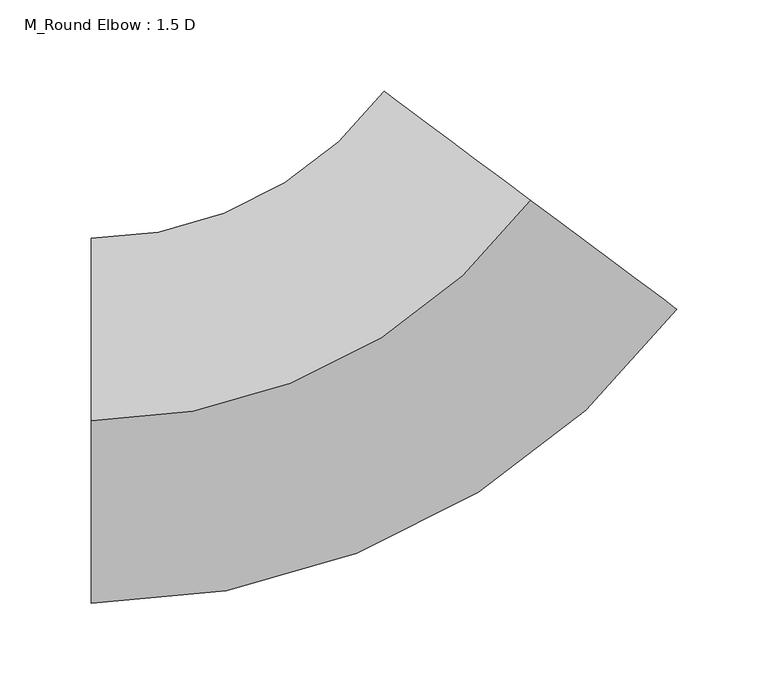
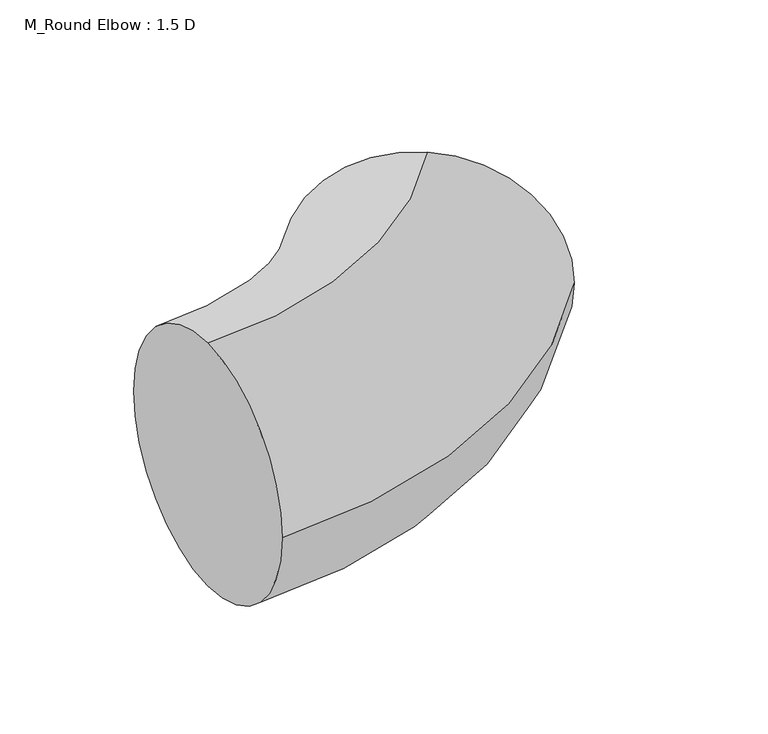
"""IFC4 building model written with IfcOpenShell, lengths in millimetres: duct fitting geometry, M_Round Elbow : 1.5 D."""

from ifc_helpers import new_model, si_unit, point, frame, origin, place, context, project, spatial, circle_curve, ellipse_curve, trimmed, source, transform, mapped, element, save
from ifc_brep_helpers import plane_surface, revolved_surface, advanced_brep


def m_round_elbow_1_5_d_a73345fc(model_context):
    return source(origin(), model_context, "Body", "AdvancedBrep", [
        advanced_brep(
        [(-150.6718755, 0.0, 100.0), (-150.6718755, 100.0, 0.0), (-150.6718755, 0.0, -100.0), (-150.6718755, -100.0, 0.0), (89.9710075, 120.8603817, 100.0), (170.1853019, 61.1471757, 0.0), (89.9710075, 120.8603817, -100.0), (9.7567132, 180.5735878, 0.0)],
        [
            (0, 1, circle_curve(frame((-150.6718755, 0.0, 0.0), z_axis=(-1.0, 0.0, 0.0), x_axis=(0.0, 1.0, 0.0)), 100.0)),
            (1, 2, circle_curve(frame((-150.6718755, 0.0, 0.0), z_axis=(-1.0, 0.0, 0.0), x_axis=(0.0, 1.0, 0.0)), 100.0)),
            (2, 3, circle_curve(frame((-150.6718755, 0.0, 0.0), z_axis=(-1.0, 0.0, 0.0), x_axis=(0.0, 1.0, 0.0)), 100.0)),
            (3, 0, circle_curve(frame((-150.6718755, 0.0, 0.0), z_axis=(-1.0, 0.0, 0.0), x_axis=(0.0, 1.0, 0.0)), 100.0)),
            (4, 5, circle_curve(frame((89.9710075, 120.8603817, 0.0), z_axis=(0.5971320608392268, 0.8021429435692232, 0.0), x_axis=(-0.8021429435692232, 0.5971320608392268, 0.0)), 100.0)),
            (5, 6, circle_curve(frame((89.9710075, 120.8603817, 0.0), z_axis=(0.5971320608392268, 0.8021429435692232, 0.0), x_axis=(-0.8021429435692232, 0.5971320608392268, 0.0)), 100.0)),
            (6, 7, circle_curve(frame((89.9710075, 120.8603817, 0.0), z_axis=(0.5971320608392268, 0.8021429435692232, 0.0), x_axis=(-0.8021429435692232, 0.5971320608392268, 0.0)), 100.0)),
            (7, 4, circle_curve(frame((89.9710075, 120.8603817, 0.0), z_axis=(0.5971320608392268, 0.8021429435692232, 0.0), x_axis=(-0.8021429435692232, 0.5971320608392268, 0.0)), 100.0)),
            (7, 1, circle_curve(frame((-150.6718755, 300.0, 0.0), z_axis=(0.0, 0.0, -1.0), x_axis=(0.0, -1.0, 0.0)), 200.0)),
            (0, 4, circle_curve(frame((-150.6718755, 300.0, 100.0), z_axis=(0.0, 0.0, 1.0), x_axis=(0.0, -1.0, 0.0)), 300.0)),
            (6, 2, circle_curve(frame((-150.6718755, 300.0, -100.0), z_axis=(0.0, 0.0, -1.0), x_axis=(0.0, -1.0, 0.0)), 300.0)),
            (5, 3, circle_curve(frame((-150.6718755, 300.0, 0.0), z_axis=(0.0, 0.0, -1.0), x_axis=(0.0, -1.0, 0.0)), 400.0)),
        ],
        [
            plane_surface(frame((-150.6718755, 0.0, 0.0), z_axis=(-1.0, 0.0, 0.0), x_axis=(0.0, 0.0, 1.0))),
            plane_surface(frame((89.9710075, 120.8603817, 0.0), z_axis=(0.5971320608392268, 0.8021429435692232, 0.0), x_axis=(0.0, 0.0, 1.0))),
            revolved_surface(trimmed(ellipse_curve(frame((-150.6718755, 0.0, 0.0), z_axis=(-1.0, 0.0, 0.0), x_axis=(0.0, 1.0, 0.0)), 100.0, 100.0), [point((-150.6718755, 0.0, 100.0))], [point((-150.6718755, 100.0, 0.0))], True, "CARTESIAN"), (-150.6718755, 300.0, 0.0), (0.0, 0.0, 1.0)),
            revolved_surface(trimmed(ellipse_curve(frame((-150.6718755, 0.0, 0.0), z_axis=(-1.0, 0.0, 0.0), x_axis=(0.0, 1.0, 0.0)), 100.0, 100.0), [point((-150.6718755, 100.0, 0.0))], [point((-150.6718755, 0.0, -100.0))], True, "CARTESIAN"), (-150.6718755, 300.0, 0.0), (0.0, 0.0, 1.0)),
            revolved_surface(trimmed(ellipse_curve(frame((-150.6718755, 0.0, 0.0), z_axis=(-1.0, 0.0, 0.0), x_axis=(0.0, 1.0, 0.0)), 100.0, 100.0), [point((-150.6718755, 0.0, -100.0))], [point((-150.6718755, -100.0, 0.0))], True, "CARTESIAN"), (-150.6718755, 300.0, 0.0), (0.0, 0.0, 1.0)),
            revolved_surface(trimmed(ellipse_curve(frame((-150.6718755, 0.0, 0.0), z_axis=(-1.0, 0.0, 0.0), x_axis=(0.0, 1.0, 0.0)), 100.0, 100.0), [point((-150.6718755, -100.0, 0.0))], [point((-150.6718755, 0.0, 100.0))], True, "CARTESIAN"), (-150.6718755, 300.0, 0.0), (0.0, 0.0, 1.0)),
        ],
        [
            (0, [[1, 2, 3, 4]]),
            (1, [[5, 6, 7, 8]]),
            (2, [[9, -1, 10, -8]]),
            (3, [[11, -2, -9, -7]]),
            (4, [[12, -3, -11, -6]]),
            (5, [[-10, -4, -12, -5]]),
        ],
    ),
        advanced_brep(
        [(-150.6718755, 0.0, 100.0), (-150.6718755, 100.0, 0.0), (-150.6718755, 0.0, -100.0), (-150.6718755, -100.0, 0.0), (89.9710075, 120.8603817, 100.0), (170.1853019, 61.1471757, 0.0), (89.9710075, 120.8603817, -100.0), (9.7567132, 180.5735878, 0.0)],
        [
            (0, 1, circle_curve(frame((-150.6718755, 0.0, 0.0), z_axis=(-1.0, 0.0, 0.0), x_axis=(0.0, 1.0, 0.0)), 100.0)),
            (1, 2, circle_curve(frame((-150.6718755, 0.0, 0.0), z_axis=(-1.0, 0.0, 0.0), x_axis=(0.0, 1.0, 0.0)), 100.0)),
            (2, 3, circle_curve(frame((-150.6718755, 0.0, 0.0), z_axis=(-1.0, 0.0, 0.0), x_axis=(0.0, 1.0, 0.0)), 100.0)),
            (3, 0, circle_curve(frame((-150.6718755, 0.0, 0.0), z_axis=(-1.0, 0.0, 0.0), x_axis=(0.0, 1.0, 0.0)), 100.0)),
            (4, 5, circle_curve(frame((89.9710075, 120.8603817, 0.0), z_axis=(0.5971320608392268, 0.8021429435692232, 0.0), x_axis=(-0.8021429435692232, 0.5971320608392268, 0.0)), 100.0)),
            (5, 6, circle_curve(frame((89.9710075, 120.8603817, 0.0), z_axis=(0.5971320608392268, 0.8021429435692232, 0.0), x_axis=(-0.8021429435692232, 0.5971320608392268, 0.0)), 100.0)),
            (6, 7, circle_curve(frame((89.9710075, 120.8603817, 0.0), z_axis=(0.5971320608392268, 0.8021429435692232, 0.0), x_axis=(-0.8021429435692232, 0.5971320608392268, 0.0)), 100.0)),
            (7, 4, circle_curve(frame((89.9710075, 120.8603817, 0.0), z_axis=(0.5971320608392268, 0.8021429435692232, 0.0), x_axis=(-0.8021429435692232, 0.5971320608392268, 0.0)), 100.0)),
            (7, 1, circle_curve(frame((-150.6718755, 300.0, 0.0), z_axis=(0.0, 0.0, -1.0), x_axis=(0.0, -1.0, 0.0)), 200.0)),
            (0, 4, circle_curve(frame((-150.6718755, 300.0, 100.0), z_axis=(0.0, 0.0, 1.0), x_axis=(0.0, -1.0, 0.0)), 300.0)),
            (6, 2, circle_curve(frame((-150.6718755, 300.0, -100.0), z_axis=(0.0, 0.0, -1.0), x_axis=(0.0, -1.0, 0.0)), 300.0)),
            (5, 3, circle_curve(frame((-150.6718755, 300.0, 0.0), z_axis=(0.0, 0.0, -1.0), x_axis=(0.0, -1.0, 0.0)), 400.0)),
        ],
        [
            plane_surface(frame((-150.6718755, 0.0, 0.0), z_axis=(-1.0, 0.0, 0.0), x_axis=(0.0, 0.0, 1.0))),
            plane_surface(frame((89.9710075, 120.8603817, 0.0), z_axis=(0.5971320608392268, 0.8021429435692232, 0.0), x_axis=(0.0, 0.0, 1.0))),
            revolved_surface(trimmed(ellipse_curve(frame((-150.6718755, 0.0, 0.0), z_axis=(-1.0, 0.0, 0.0), x_axis=(0.0, 1.0, 0.0)), 100.0, 100.0), [point((-150.6718755, 0.0, 100.0))], [point((-150.6718755, 100.0, 0.0))], True, "CARTESIAN"), (-150.6718755, 300.0, 0.0), (0.0, 0.0, 1.0)),
            revolved_surface(trimmed(ellipse_curve(frame((-150.6718755, 0.0, 0.0), z_axis=(-1.0, 0.0, 0.0), x_axis=(0.0, 1.0, 0.0)), 100.0, 100.0), [point((-150.6718755, 100.0, 0.0))], [point((-150.6718755, 0.0, -100.0))], True, "CARTESIAN"), (-150.6718755, 300.0, 0.0), (0.0, 0.0, 1.0)),
            revolved_surface(trimmed(ellipse_curve(frame((-150.6718755, 0.0, 0.0), z_axis=(-1.0, 0.0, 0.0), x_axis=(0.0, 1.0, 0.0)), 100.0, 100.0), [point((-150.6718755, 0.0, -100.0))], [point((-150.6718755, -100.0, 0.0))], True, "CARTESIAN"), (-150.6718755, 300.0, 0.0), (0.0, 0.0, 1.0)),
            revolved_surface(trimmed(ellipse_curve(frame((-150.6718755, 0.0, 0.0), z_axis=(-1.0, 0.0, 0.0), x_axis=(0.0, 1.0, 0.0)), 100.0, 100.0), [point((-150.6718755, -100.0, 0.0))], [point((-150.6718755, 0.0, 100.0))], True, "CARTESIAN"), (-150.6718755, 300.0, 0.0), (0.0, 0.0, 1.0)),
        ],
        [
            (0, [[1, 2, 3, 4]]),
            (1, [[5, 6, 7, 8]]),
            (2, [[9, -1, 10, -8]]),
            (3, [[11, -2, -9, -7]]),
            (4, [[12, -3, -11, -6]]),
            (5, [[-10, -4, -12, -5]]),
        ],
    ),
        advanced_brep(
        [(-150.6718755, 0.0, 100.0), (-150.6718755, 100.0, 0.0), (-150.6718755, 0.0, -100.0), (-150.6718755, -100.0, 0.0), (89.9710075, 120.8603817, 100.0), (170.1853019, 61.1471757, 0.0), (89.9710075, 120.8603817, -100.0), (9.7567132, 180.5735878, 0.0)],
        [
            (0, 1, circle_curve(frame((-150.6718755, 0.0, 0.0), z_axis=(-1.0, 0.0, 0.0), x_axis=(0.0, 1.0, 0.0)), 100.0)),
            (1, 2, circle_curve(frame((-150.6718755, 0.0, 0.0), z_axis=(-1.0, 0.0, 0.0), x_axis=(0.0, 1.0, 0.0)), 100.0)),
            (2, 3, circle_curve(frame((-150.6718755, 0.0, 0.0), z_axis=(-1.0, 0.0, 0.0), x_axis=(0.0, 1.0, 0.0)), 100.0)),
            (3, 0, circle_curve(frame((-150.6718755, 0.0, 0.0), z_axis=(-1.0, 0.0, 0.0), x_axis=(0.0, 1.0, 0.0)), 100.0)),
            (4, 5, circle_curve(frame((89.9710075, 120.8603817, 0.0), z_axis=(0.5971320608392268, 0.8021429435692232, 0.0), x_axis=(-0.8021429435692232, 0.5971320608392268, 0.0)), 100.0)),
            (5, 6, circle_curve(frame((89.9710075, 120.8603817, 0.0), z_axis=(0.5971320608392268, 0.8021429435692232, 0.0), x_axis=(-0.8021429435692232, 0.5971320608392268, 0.0)), 100.0)),
            (6, 7, circle_curve(frame((89.9710075, 120.8603817, 0.0), z_axis=(0.5971320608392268, 0.8021429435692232, 0.0), x_axis=(-0.8021429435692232, 0.5971320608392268, 0.0)), 100.0)),
            (7, 4, circle_curve(frame((89.9710075, 120.8603817, 0.0), z_axis=(0.5971320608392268, 0.8021429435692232, 0.0), x_axis=(-0.8021429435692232, 0.5971320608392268, 0.0)), 100.0)),
            (7, 1, circle_curve(frame((-150.6718755, 300.0, 0.0), z_axis=(0.0, 0.0, -1.0), x_axis=(0.0, -1.0, 0.0)), 200.0)),
            (0, 4, circle_curve(frame((-150.6718755, 300.0, 100.0), z_axis=(0.0, 0.0, 1.0), x_axis=(0.0, -1.0, 0.0)), 300.0)),
            (6, 2, circle_curve(frame((-150.6718755, 300.0, -100.0), z_axis=(0.0, 0.0, -1.0), x_axis=(0.0, -1.0, 0.0)), 300.0)),
            (5, 3, circle_curve(frame((-150.6718755, 300.0, 0.0), z_axis=(0.0, 0.0, -1.0), x_axis=(0.0, -1.0, 0.0)), 400.0)),
        ],
        [
            plane_surface(frame((-150.6718755, 0.0, 0.0), z_axis=(-1.0, 0.0, 0.0), x_axis=(0.0, 0.0, 1.0))),
            plane_surface(frame((89.9710075, 120.8603817, 0.0), z_axis=(0.5971320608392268, 0.8021429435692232, 0.0), x_axis=(0.0, 0.0, 1.0))),
            revolved_surface(trimmed(ellipse_curve(frame((-150.6718755, 0.0, 0.0), z_axis=(-1.0, 0.0, 0.0), x_axis=(0.0, 1.0, 0.0)), 100.0, 100.0), [point((-150.6718755, 0.0, 100.0))], [point((-150.6718755, 100.0, 0.0))], True, "CARTESIAN"), (-150.6718755, 300.0, 0.0), (0.0, 0.0, 1.0)),
            revolved_surface(trimmed(ellipse_curve(frame((-150.6718755, 0.0, 0.0), z_axis=(-1.0, 0.0, 0.0), x_axis=(0.0, 1.0, 0.0)), 100.0, 100.0), [point((-150.6718755, 100.0, 0.0))], [point((-150.6718755, 0.0, -100.0))], True, "CARTESIAN"), (-150.6718755, 300.0, 0.0), (0.0, 0.0, 1.0)),
            revolved_surface(trimmed(ellipse_curve(frame((-150.6718755, 0.0, 0.0), z_axis=(-1.0, 0.0, 0.0), x_axis=(0.0, 1.0, 0.0)), 100.0, 100.0), [point((-150.6718755, 0.0, -100.0))], [point((-150.6718755, -100.0, 0.0))], True, "CARTESIAN"), (-150.6718755, 300.0, 0.0), (0.0, 0.0, 1.0)),
            revolved_surface(trimmed(ellipse_curve(frame((-150.6718755, 0.0, 0.0), z_axis=(-1.0, 0.0, 0.0), x_axis=(0.0, 1.0, 0.0)), 100.0, 100.0), [point((-150.6718755, -100.0, 0.0))], [point((-150.6718755, 0.0, 100.0))], True, "CARTESIAN"), (-150.6718755, 300.0, 0.0), (0.0, 0.0, 1.0)),
        ],
        [
            (0, [[1, 2, 3, 4]]),
            (1, [[5, 6, 7, 8]]),
            (2, [[9, -1, 10, -8]]),
            (3, [[11, -2, -9, -7]]),
            (4, [[12, -3, -11, -6]]),
            (5, [[-10, -4, -12, -5]]),
        ],
    ),
    ])


if __name__ == "__main__":
    model = new_model("IFC4")
    model_context = context("Model", 3, world=origin())
    ifc_project = project(units=[si_unit("LENGTHUNIT", "METRE", prefix="MILLI")], contexts=[model_context])
    site = spatial("IfcSite", under=ifc_project)
    building = spatial("IfcBuilding", under=site)
    placement = place(None, origin())
    m_round_elbow_1_5_d_shape = m_round_elbow_1_5_d_a73345fc(model_context)
    element("IfcDuctFitting", 1, ObjectType="M_Round Elbow : 1.5 D", at=placement, inside=building, context=model_context, shape_type="MappedRepresentation", body=[
        mapped(m_round_elbow_1_5_d_shape, transform((0.0, 0.0, 0.0), x_axis=(1.0, 0.0, 0.0), y_axis=(0.0, 1.0, 0.0), z_axis=(0.0, 0.0, 1.0))),
    ])
    save(model, "model.ifc")
